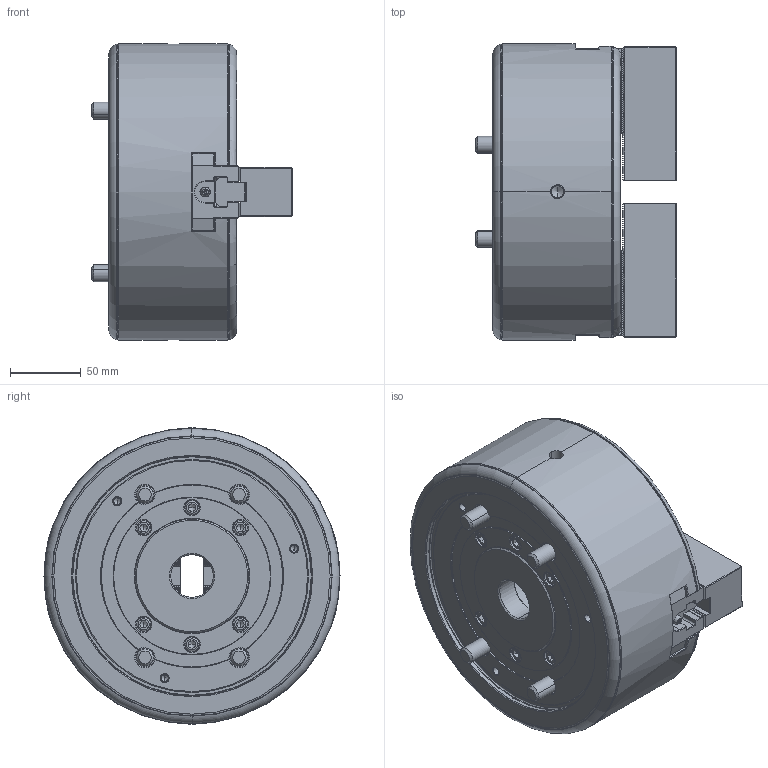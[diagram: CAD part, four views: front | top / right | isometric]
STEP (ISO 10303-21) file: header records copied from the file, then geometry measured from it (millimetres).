
FILE_DESCRIPTION (( 'STEP AP214' ), '1' );
FILE_NAME ('BRT08_OC.STEP', '2022-06-20T02:18:41', ( '' ), ( '' ), 'SwSTEP 2.0', 'SolidWorks 2020', '' );
FILE_SCHEMA (( 'AUTOMOTIVE_DESIGN' ));
Length unit declared in the file: millimetre
Products named in the file (5): Bアナツキ M12×30; Part4^BRT08-Nishi21 クミタテ(量産)★; BRT08-Nishi20 Tナット-Puls_61P417260-1 B-208 Tﾅｯﾄ-ﾃﾞﾌｫﾙﾄ; BRT08-61P314548-5 ソフトジョー_BBT208-ﾃﾞﾌｫﾙﾄ; BRT08_OC
Assembly tree (9 placements, depth 2):
  BRT08_OC
    BRT08-61P314548-5 ソフトジョー_BBT208-ﾃﾞﾌｫﾙﾄ  x2
    BRT08-Nishi20 Tナット-Puls_61P417260-1 B-208 Tﾅｯﾄ-ﾃﾞﾌｫﾙﾄ  x2
    Bアナツキ M12×30  x4
    Part4^BRT08-Nishi21 クミタテ(量産)★
Bounding box: 142.2 x 210 x 210 mm (x, y, z)
Volume: 2952459.9 mm3; surface area: 271975.2 mm2
Topology: 9 solids, 17 shells, 2927 faces, 8090 edges, 5257 vertices
Faces by surface type: plane 2046, cylinder 374, cone 280, bspline 126, torus 93, sphere 8
Entity records: 80915 total; most frequent: CARTESIAN_POINT 20624, ORIENTED_EDGE 13074, DIRECTION 11568, EDGE_CURVE 6537, VECTOR 4764, LINE 4764, VERTEX_POINT 4272, AXIS2_PLACEMENT_3D 3402
